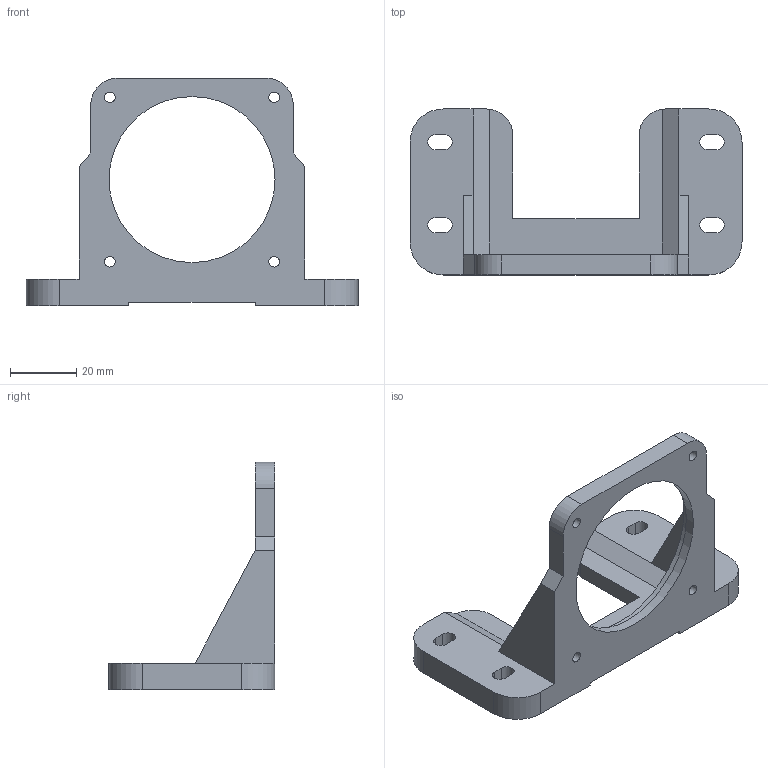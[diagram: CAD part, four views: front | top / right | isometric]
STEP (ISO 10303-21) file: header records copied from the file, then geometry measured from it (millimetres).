
FILE_DESCRIPTION((''),'2;1');
FILE_NAME('E:\2공장-도면\3D\표준형 3D(민규)\step file\BRACKET\K6B.stp','2014-11-21T16:20:47',('AHN'),(''),'Autodesk Inventor 2012','Autodesk Inventor 2012','');
FILE_SCHEMA(('CONFIG_CONTROL_DESIGN'));
Length unit declared in the file: millimetre
Products named in the file (1): K6B
Bounding box: 100 x 50 x 68.5 mm (x, y, z)
Volume: 34519.7 mm3; surface area: 17457.6 mm2
Topology: 1 solids, 1 shells, 97 faces, 273 edges, 181 vertices
Faces by surface type: plane 55, cylinder 42
Full cylindrical faces by diameter (mm): 3.2 x4, 50 x1, 54 x1
Entity records: 3172 total; most frequent: DIRECTION 548, CARTESIAN_POINT 544, ORIENTED_EDGE 532, EDGE_CURVE 266, AXIS2_PLACEMENT_3D 184, VERTEX_POINT 180, VECTOR 180, LINE 180
